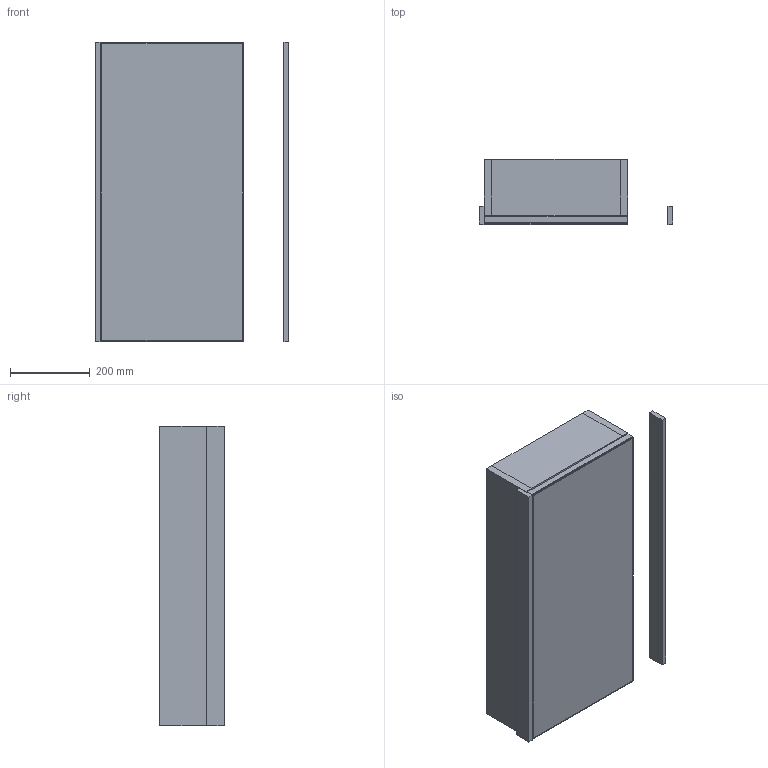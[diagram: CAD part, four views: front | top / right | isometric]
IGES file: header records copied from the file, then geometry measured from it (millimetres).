
Start section: Data from Parasolid IGES Translator 19.0.9, Copyright(c) 2006 Siemens PL M Software. All Rights Reserved.
Global section: file name: noorth-mirror-H 75 D 4,5-16 W 36_9127.igs; native system: By Siemens PLM Incorporated; preprocessor: XPlus GENERIC/IGES 19.0.9; author: Noname; organization: Noname; date: 20200519.100523; units: metre
Bounding box: 483.82 x 162 x 750 mm (x, y, z)
Volume: 12882618.1 mm3; surface area: 2640441.9 mm2
Topology: 12 solids, 12 shells, 136 faces, 264 edges, 152 vertices
Faces by surface type: plane 136
